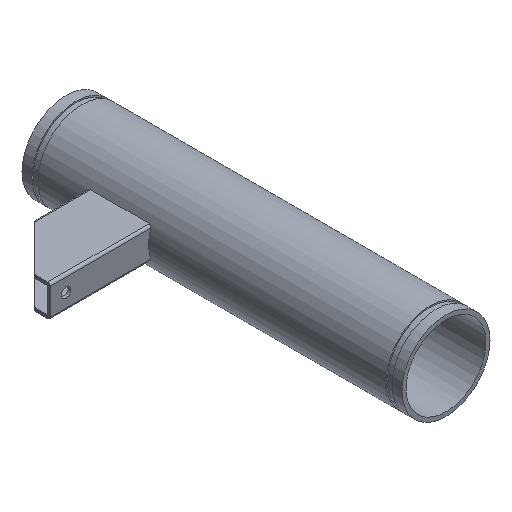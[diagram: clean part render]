
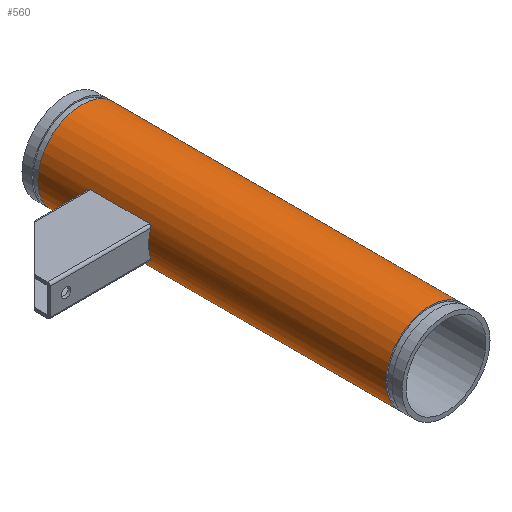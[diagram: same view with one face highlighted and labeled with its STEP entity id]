
A CAD part, isometric view. The second image highlights one B-rep face of the part: STEP entity #560.
In plain terms, the highlighted cylindrical face has radius 70.65 mm (diameter 141.3 mm), a full revolution.
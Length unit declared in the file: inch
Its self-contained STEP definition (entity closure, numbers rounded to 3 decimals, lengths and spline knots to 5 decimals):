
#22=CIRCLE('',#603,2.7815);
#23=CIRCLE('',#604,2.7815);
#32=CIRCLE('',#621,2.7815);
#33=CIRCLE('',#622,2.7815);
#34=CIRCLE('',#623,2.7815);
#35=CIRCLE('',#624,2.7815);
#36=CIRCLE('',#625,2.7815);
#37=CIRCLE('',#626,2.7815);
#83=FACE_OUTER_BOUND('',#111,.T.);
#111=EDGE_LOOP('',(#407,#408,#409,#410,#411,#412,#413,#414,#415,#416,#417,
#418,#419,#420,#421,#422,#423,#424));
#136=B_SPLINE_CURVE_WITH_KNOTS('',3,(#837,#838,#839,#840,#841,#842,#843,
#844,#845,#846),.UNSPECIFIED.,.F.,.F.,(4,2,2,2,4),(0.,0.14333,
0.28665,0.43891,0.59116),.UNSPECIFIED.);
#137=B_SPLINE_CURVE_WITH_KNOTS('',3,(#863,#864,#865,#866,#867,#868,#869,
#870,#871,#872),.UNSPECIFIED.,.F.,.F.,(4,2,2,2,4),(-0.59116,-0.43891,
-0.28665,-0.14333,0.),.UNSPECIFIED.);
#138=B_SPLINE_CURVE_WITH_KNOTS('',3,(#883,#884,#885,#886,#887,#888,#889,
#890,#891,#892),.UNSPECIFIED.,.F.,.F.,(4,2,2,2,4),(0.58638,0.73864,
0.89089,1.03422,1.17755),.UNSPECIFIED.);
#139=B_SPLINE_CURVE_WITH_KNOTS('',3,(#914,#915,#916,#917,#918,#919,#920,
#921,#922,#923),.UNSPECIFIED.,.F.,.F.,(4,2,2,2,4),(1.17755,1.32087,
1.4642,1.61645,1.76871),.UNSPECIFIED.);
#142=LINE('',#850,#180);
#160=LINE('',#927,#198);
#167=LINE('',#959,#205);
#168=LINE('',#962,#206);
#180=VECTOR('',#671,0.3937);
#198=VECTOR('',#711,0.3937);
#205=VECTOR('',#742,2.7815);
#206=VECTOR('',#745,2.7815);
#220=VERTEX_POINT('',#834);
#221=VERTEX_POINT('',#836);
#222=VERTEX_POINT('',#849);
#227=VERTEX_POINT('',#860);
#228=VERTEX_POINT('',#862);
#229=VERTEX_POINT('',#876);
#231=VERTEX_POINT('',#882);
#239=VERTEX_POINT('',#911);
#240=VERTEX_POINT('',#913);
#251=VERTEX_POINT('',#954);
#252=VERTEX_POINT('',#955);
#253=VERTEX_POINT('',#958);
#254=VERTEX_POINT('',#961);
#255=VERTEX_POINT('',#963);
#276=EDGE_CURVE('',#220,#221,#136,.F.);
#278=EDGE_CURVE('',#222,#221,#142,.T.);
#284=EDGE_CURVE('',#227,#228,#137,.F.);
#287=EDGE_CURVE('',#229,#228,#22,.T.);
#288=EDGE_CURVE('',#220,#229,#23,.T.);
#290=EDGE_CURVE('',#222,#231,#138,.F.);
#301=EDGE_CURVE('',#239,#240,#139,.F.);
#304=EDGE_CURVE('',#227,#240,#160,.T.);
#317=EDGE_CURVE('',#251,#252,#32,.T.);
#318=EDGE_CURVE('',#252,#251,#33,.T.);
#319=EDGE_CURVE('',#252,#253,#167,.T.);
#320=EDGE_CURVE('',#253,#231,#34,.T.);
#321=EDGE_CURVE('',#229,#254,#168,.T.);
#322=EDGE_CURVE('',#254,#255,#35,.T.);
#323=EDGE_CURVE('',#255,#254,#36,.T.);
#324=EDGE_CURVE('',#239,#253,#37,.T.);
#407=ORIENTED_EDGE('',*,*,#317,.F.);
#408=ORIENTED_EDGE('',*,*,#318,.F.);
#409=ORIENTED_EDGE('',*,*,#319,.T.);
#410=ORIENTED_EDGE('',*,*,#320,.T.);
#411=ORIENTED_EDGE('',*,*,#290,.F.);
#412=ORIENTED_EDGE('',*,*,#278,.T.);
#413=ORIENTED_EDGE('',*,*,#276,.F.);
#414=ORIENTED_EDGE('',*,*,#288,.T.);
#415=ORIENTED_EDGE('',*,*,#321,.T.);
#416=ORIENTED_EDGE('',*,*,#322,.T.);
#417=ORIENTED_EDGE('',*,*,#323,.T.);
#418=ORIENTED_EDGE('',*,*,#321,.F.);
#419=ORIENTED_EDGE('',*,*,#287,.T.);
#420=ORIENTED_EDGE('',*,*,#284,.F.);
#421=ORIENTED_EDGE('',*,*,#304,.T.);
#422=ORIENTED_EDGE('',*,*,#301,.F.);
#423=ORIENTED_EDGE('',*,*,#324,.T.);
#424=ORIENTED_EDGE('',*,*,#319,.F.);
#514=CYLINDRICAL_SURFACE('',#620,2.7815);
#560=ADVANCED_FACE('',(#83),#514,.T.);
#603=AXIS2_PLACEMENT_3D('',#877,#684,#685);
#604=AXIS2_PLACEMENT_3D('',#878,#686,#687);
#620=AXIS2_PLACEMENT_3D('',#953,#736,#737);
#621=AXIS2_PLACEMENT_3D('',#956,#738,#739);
#622=AXIS2_PLACEMENT_3D('',#957,#740,#741);
#623=AXIS2_PLACEMENT_3D('',#960,#743,#744);
#624=AXIS2_PLACEMENT_3D('',#964,#746,#747);
#625=AXIS2_PLACEMENT_3D('',#965,#748,#749);
#626=AXIS2_PLACEMENT_3D('',#966,#750,#751);
#671=DIRECTION('',(0.,1.,0.));
#684=DIRECTION('center_axis',(0.,1.,0.));
#685=DIRECTION('ref_axis',(1.,0.,0.));
#686=DIRECTION('center_axis',(0.,1.,0.));
#687=DIRECTION('ref_axis',(1.,0.,0.));
#711=DIRECTION('',(0.,-1.,0.));
#736=DIRECTION('center_axis',(0.,-1.,0.));
#737=DIRECTION('ref_axis',(1.,0.,0.));
#738=DIRECTION('center_axis',(0.,-1.,0.));
#739=DIRECTION('ref_axis',(1.,0.,0.));
#740=DIRECTION('center_axis',(0.,-1.,0.));
#741=DIRECTION('ref_axis',(1.,0.,0.));
#742=DIRECTION('',(0.,1.,0.));
#743=DIRECTION('center_axis',(0.,-1.,0.));
#744=DIRECTION('ref_axis',(1.,0.,0.));
#745=DIRECTION('',(0.,1.,0.));
#746=DIRECTION('center_axis',(0.,-1.,0.));
#747=DIRECTION('ref_axis',(1.,0.,0.));
#748=DIRECTION('center_axis',(0.,-1.,0.));
#749=DIRECTION('ref_axis',(1.,0.,0.));
#750=DIRECTION('center_axis',(0.,-1.,0.));
#751=DIRECTION('ref_axis',(1.,0.,0.));
#834=CARTESIAN_POINT('',(-2.64844,20.,-0.85));
#836=CARTESIAN_POINT('',(-2.59552,19.85,-1.));
#837=CARTESIAN_POINT('Ctrl Pts',(-2.59552,19.85,-1.));
#838=CARTESIAN_POINT('Ctrl Pts',(-2.59552,19.86881,-1.));
#839=CARTESIAN_POINT('Ctrl Pts',(-2.59698,19.88877,-0.99624));
#840=CARTESIAN_POINT('Ctrl Pts',(-2.60269,19.92527,-0.98124));
#841=CARTESIAN_POINT('Ctrl Pts',(-2.60692,19.94182,-0.97001));
#842=CARTESIAN_POINT('Ctrl Pts',(-2.61654,19.96869,-0.94374));
#843=CARTESIAN_POINT('Ctrl Pts',(-2.62268,19.98052,-0.92665));
#844=CARTESIAN_POINT('Ctrl Pts',(-2.63558,19.99617,-0.8893));
#845=CARTESIAN_POINT('Ctrl Pts',(-2.64234,20.,-0.86903));
#846=CARTESIAN_POINT('Ctrl Pts',(-2.64844,20.,-0.85));
#849=CARTESIAN_POINT('',(-2.59552,16.15,-1.));
#850=CARTESIAN_POINT('',(-2.59552,12.,-1.));
#860=CARTESIAN_POINT('',(-2.59552,19.85,1.));
#862=CARTESIAN_POINT('',(-2.64844,20.,0.85));
#863=CARTESIAN_POINT('Ctrl Pts',(-2.64844,20.,0.85));
#864=CARTESIAN_POINT('Ctrl Pts',(-2.64234,20.,0.86903));
#865=CARTESIAN_POINT('Ctrl Pts',(-2.63558,19.99617,0.8893));
#866=CARTESIAN_POINT('Ctrl Pts',(-2.62268,19.98052,0.92665));
#867=CARTESIAN_POINT('Ctrl Pts',(-2.61654,19.96869,0.94374));
#868=CARTESIAN_POINT('Ctrl Pts',(-2.60692,19.94182,0.97001));
#869=CARTESIAN_POINT('Ctrl Pts',(-2.60269,19.92527,0.98124));
#870=CARTESIAN_POINT('Ctrl Pts',(-2.59698,19.88877,0.99624));
#871=CARTESIAN_POINT('Ctrl Pts',(-2.59552,19.86881,1.));
#872=CARTESIAN_POINT('Ctrl Pts',(-2.59552,19.85,1.));
#876=CARTESIAN_POINT('',(-2.7815,20.,0.));
#877=CARTESIAN_POINT('Origin',(0.,20.,0.));
#878=CARTESIAN_POINT('Origin',(0.,20.,0.));
#882=CARTESIAN_POINT('',(-2.64844,16.,-0.85));
#883=CARTESIAN_POINT('Ctrl Pts',(-2.64844,16.,-0.85));
#884=CARTESIAN_POINT('Ctrl Pts',(-2.64234,16.,-0.86903));
#885=CARTESIAN_POINT('Ctrl Pts',(-2.63558,16.00383,-0.8893));
#886=CARTESIAN_POINT('Ctrl Pts',(-2.62268,16.01948,-0.92665));
#887=CARTESIAN_POINT('Ctrl Pts',(-2.61654,16.03131,-0.94374));
#888=CARTESIAN_POINT('Ctrl Pts',(-2.60692,16.05818,-0.97001));
#889=CARTESIAN_POINT('Ctrl Pts',(-2.60269,16.07473,-0.98124));
#890=CARTESIAN_POINT('Ctrl Pts',(-2.59698,16.11123,-0.99624));
#891=CARTESIAN_POINT('Ctrl Pts',(-2.59552,16.13119,-1.));
#892=CARTESIAN_POINT('Ctrl Pts',(-2.59552,16.15,-1.));
#911=CARTESIAN_POINT('',(-2.64844,16.,0.85));
#913=CARTESIAN_POINT('',(-2.59552,16.15,1.));
#914=CARTESIAN_POINT('Ctrl Pts',(-2.59552,16.15,1.));
#915=CARTESIAN_POINT('Ctrl Pts',(-2.59552,16.13119,1.));
#916=CARTESIAN_POINT('Ctrl Pts',(-2.59698,16.11123,0.99624));
#917=CARTESIAN_POINT('Ctrl Pts',(-2.60269,16.07473,0.98124));
#918=CARTESIAN_POINT('Ctrl Pts',(-2.60692,16.05818,0.97001));
#919=CARTESIAN_POINT('Ctrl Pts',(-2.61654,16.03131,0.94374));
#920=CARTESIAN_POINT('Ctrl Pts',(-2.62268,16.01948,0.92665));
#921=CARTESIAN_POINT('Ctrl Pts',(-2.63558,16.00383,0.8893));
#922=CARTESIAN_POINT('Ctrl Pts',(-2.64234,16.,0.86903));
#923=CARTESIAN_POINT('Ctrl Pts',(-2.64844,16.,0.85));
#927=CARTESIAN_POINT('',(-2.59552,12.,1.));
#953=CARTESIAN_POINT('Origin',(0.,12.,0.));
#954=CARTESIAN_POINT('',(2.7815,1.,0.));
#955=CARTESIAN_POINT('',(-2.7815,1.,0.));
#956=CARTESIAN_POINT('Origin',(0.,1.,0.));
#957=CARTESIAN_POINT('Origin',(0.,1.,0.));
#958=CARTESIAN_POINT('',(-2.7815,16.,0.));
#959=CARTESIAN_POINT('',(-2.7815,12.,0.));
#960=CARTESIAN_POINT('Origin',(0.,16.,0.));
#961=CARTESIAN_POINT('',(-2.7815,23.,0.));
#962=CARTESIAN_POINT('',(-2.7815,12.,0.));
#963=CARTESIAN_POINT('',(2.7815,23.,0.));
#964=CARTESIAN_POINT('Origin',(0.,23.,0.));
#965=CARTESIAN_POINT('Origin',(0.,23.,0.));
#966=CARTESIAN_POINT('Origin',(0.,16.,0.));
